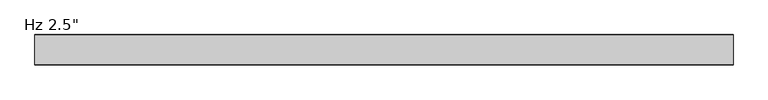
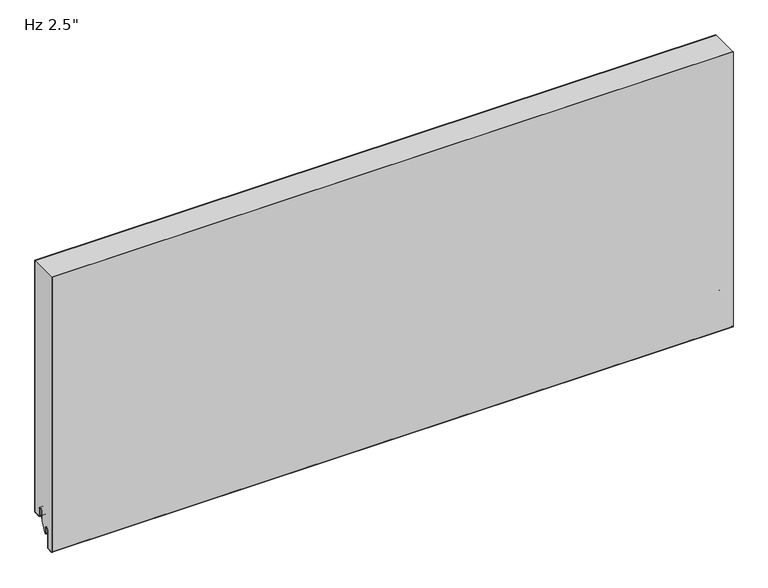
"""IFC4 building model written with IfcOpenShell, lengths in millimetres: plate geometry."""

from ifc_helpers import new_model, si_unit, point, frame, frame_2d, origin, place, context, project, spatial, polyline, circle_curve, trimmed, segment, composite_curve, outline, extrude, source, transform, mapped, element, save


def plate_1b0fe15b(model_context):
    return source(origin(), model_context, "Body", "SweptSolid", [
        extrude(outline(composite_curve([segment(trimmed(circle_curve(frame_2d((-21.43125, 19.05)), 4.96875), [point((-16.4625, 19.05))], [point((-26.4, 19.05))], True, "CARTESIAN"), True, "CONTINUOUS"), segment(polyline([(-26.4, 19.05), (-26.4, -3.1323422), (-36.5326309, -23.01875), (-38.1, -23.01875), (-38.1, -13.5080174), (-38.89375, -13.5080174), (-38.6875, -11.9205174)]), True, "CONTINUOUS"), segment(trimmed(circle_curve(frame_2d((-43.65625, -11.9205174)), 4.96875), [point((-38.6875, -11.9205174))], [point((-48.625, -11.9205174))], True, "CARTESIAN"), True, "CONTINUOUS"), segment(polyline([(-48.625, -11.9205174), (-48.625, -50.1038221)]), True, "CONTINUOUS"), segment(trimmed(circle_curve(frame_2d((-50.00625, -50.1038221)), 1.38125), [point((-48.625, -50.1038221))], [point((-49.933961, -51.4831791))], False, "CARTESIAN"), True, "CONTINUOUS"), segment(polyline([(-49.933961, -51.4831791), (-61.046461, -52.0655606)]), True, "CONTINUOUS"), segment(trimmed(circle_curve(frame_2d((-61.11875, -50.6862035)), 1.38125), [point((-61.046461, -52.0655606))], [point((-62.5, -50.6862035))], False, "CARTESIAN"), True, "CONTINUOUS"), segment(polyline([(-62.5, -50.6862035), (-62.5, 571.2), (-1.0, 571.2), (-1.0, 3.175)]), True, "CONTINUOUS"), segment(trimmed(circle_curve(frame_2d((-2.38125, 3.175)), 1.38125), [point((-1.0, 3.175))], [point((-2.38125, 1.79375))], False, "CARTESIAN"), True, "CONTINUOUS"), segment(polyline([(-2.38125, 1.79375), (-15.08125, 1.79375)]), True, "CONTINUOUS"), segment(trimmed(circle_curve(frame_2d((-15.08125, 3.175)), 1.38125), [point((-15.08125, 1.79375))], [point((-16.4625, 3.175))], False, "CARTESIAN"), True, "CONTINUOUS"), segment(polyline([(-16.4625, 3.175), (-16.4625, 19.05)]), True, "CONTINUOUS")], self_intersect=False)), frame((-730.0, 0.0, 0.0), z_axis=(1.0, 0.0, 0.0), x_axis=(0.0, 1.0, 0.0)), (0.0, 0.0, 1.0), 1460.0),
        extrude(outline(composite_curve([segment(polyline([(-25.4, 0.79375), (-26.4, 0.79375), (-26.4, 19.05)]), True, "CONTINUOUS"), segment(trimmed(circle_curve(frame_2d((-21.43125, 19.05)), 4.96875), [point((-26.4, 19.05))], [point((-16.4625, 19.05))], False, "CARTESIAN"), True, "CONTINUOUS"), segment(polyline([(-16.4625, 19.05), (-16.4625, 3.175)]), True, "CONTINUOUS"), segment(trimmed(circle_curve(frame_2d((-15.08125, 3.175)), 1.38125), [point((-16.4625, 3.175))], [point((-15.08125, 1.79375))], True, "CARTESIAN"), True, "CONTINUOUS"), segment(polyline([(-15.08125, 1.79375), (-2.38125, 1.79375)]), True, "CONTINUOUS"), segment(trimmed(circle_curve(frame_2d((-2.38125, 3.175)), 1.38125), [point((-2.38125, 1.79375))], [point((-1.0, 3.175))], True, "CARTESIAN"), True, "CONTINUOUS"), segment(polyline([(-1.0, 3.175), (-1.0, 571.2), (0.0, 571.2), (0.0, 3.175)]), True, "CONTINUOUS"), segment(trimmed(circle_curve(frame_2d((-2.38125, 3.175)), 2.38125), [point((0.0, 3.175))], [point((-2.38125, 0.79375))], False, "CARTESIAN"), True, "CONTINUOUS"), segment(polyline([(-2.38125, 0.79375), (-15.08125, 0.79375)]), True, "CONTINUOUS"), segment(trimmed(circle_curve(frame_2d((-15.08125, 3.175)), 2.38125), [point((-15.08125, 0.79375))], [point((-17.4625, 3.175))], False, "CARTESIAN"), True, "CONTINUOUS"), segment(polyline([(-17.4625, 3.175), (-17.4625, 19.05)]), True, "CONTINUOUS"), segment(trimmed(circle_curve(frame_2d((-21.43125, 19.05)), 3.96875), [point((-17.4625, 19.05))], [point((-25.4, 19.05))], True, "CARTESIAN"), True, "CONTINUOUS"), segment(polyline([(-25.4, 19.05), (-25.4, 0.79375)]), True, "CONTINUOUS")], self_intersect=False)), frame((-730.0, 0.0, 0.0), z_axis=(1.0, 0.0, 0.0), x_axis=(0.0, 1.0, 0.0)), (0.0, 0.0, 1.0), 1460.0),
        extrude(outline(composite_curve([segment(trimmed(circle_curve(frame_2d((-38.89375, -23.2314549)), 0.79375), [point((-38.1, -23.2314549))], [point((-39.6875, -23.2314549))], False, "CARTESIAN"), True, "CONTINUOUS"), segment(polyline([(-39.6875, -23.2314549), (-39.6875, -11.9205174)]), True, "CONTINUOUS"), segment(trimmed(circle_curve(frame_2d((-43.65625, -11.9205174)), 3.96875), [point((-39.6875, -11.9205174))], [point((-47.625, -11.9205174))], True, "CARTESIAN"), True, "CONTINUOUS"), segment(polyline([(-47.625, -11.9205174), (-47.625, -50.1038221)]), True, "CONTINUOUS"), segment(trimmed(circle_curve(frame_2d((-50.00625, -50.1038221)), 2.38125), [point((-47.625, -50.1038221))], [point((-49.881625, -52.4818086))], False, "CARTESIAN"), True, "CONTINUOUS"), segment(polyline([(-49.881625, -52.4818086), (-60.994125, -53.0641901)]), True, "CONTINUOUS"), segment(trimmed(circle_curve(frame_2d((-61.11875, -50.6862035)), 2.38125), [point((-60.994125, -53.0641901))], [point((-63.5, -50.6862035))], False, "CARTESIAN"), True, "CONTINUOUS"), segment(polyline([(-63.5, -50.6862035), (-63.5, 571.2), (-62.5, 571.2), (-62.5, -50.6862035)]), True, "CONTINUOUS"), segment(trimmed(circle_curve(frame_2d((-61.11875, -50.6862035)), 1.38125), [point((-62.5, -50.6862035))], [point((-61.046461, -52.0655606))], True, "CARTESIAN"), True, "CONTINUOUS"), segment(polyline([(-61.046461, -52.0655606), (-49.933961, -51.4831791)]), True, "CONTINUOUS"), segment(trimmed(circle_curve(frame_2d((-50.00625, -50.1038221)), 1.38125), [point((-49.933961, -51.4831791))], [point((-48.625, -50.1038221))], True, "CARTESIAN"), True, "CONTINUOUS"), segment(polyline([(-48.625, -50.1038221), (-48.625, -11.9205174)]), True, "CONTINUOUS"), segment(trimmed(circle_curve(frame_2d((-43.65625, -11.9205174)), 4.96875), [point((-48.625, -11.9205174))], [point((-38.6875, -11.9205174))], False, "CARTESIAN"), True, "CONTINUOUS"), segment(polyline([(-38.6875, -11.9205174), (-38.89375, -13.5080174), (-38.1, -13.5080174), (-38.1, -23.2314549)]), True, "CONTINUOUS")], self_intersect=False)), frame((-730.0, 0.0, 0.0), z_axis=(1.0, 0.0, 0.0), x_axis=(0.0, 1.0, 0.0)), (0.0, 0.0, 1.0), 1460.0),
    ])


if __name__ == "__main__":
    model = new_model("IFC4")
    model_context = context("Model", 3, world=origin())
    ifc_project = project(units=[si_unit("LENGTHUNIT", "METRE", prefix="MILLI")], contexts=[model_context])
    site = spatial("IfcSite", under=ifc_project)
    building = spatial("IfcBuilding", under=site)
    placement = place(None, origin())
    plate_shape = plate_1b0fe15b(model_context)
    element("IfcPlate", 1, ObjectType="KIP-36-DWHR-R19-CP-Hz-F : Hz 2.5\"", at=placement, inside=building, context=model_context, shape_type="MappedRepresentation", body=[
        mapped(plate_shape, transform((0.0, 0.0, 0.0), x_axis=(1.0, 0.0, 0.0), y_axis=(0.0, 1.0, 0.0), z_axis=(0.0, 0.0, 1.0))),
    ])
    save(model, "model.ifc")
